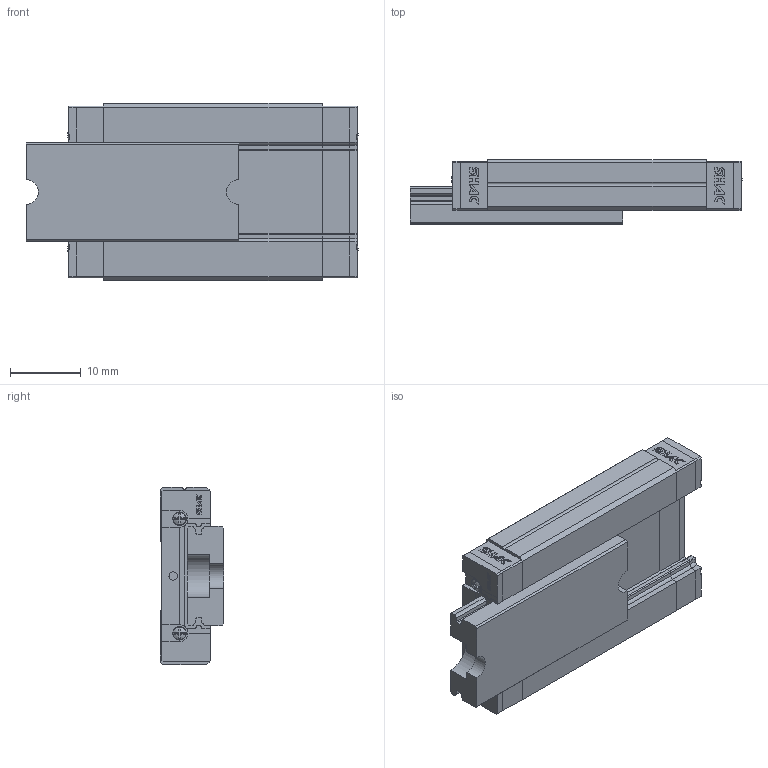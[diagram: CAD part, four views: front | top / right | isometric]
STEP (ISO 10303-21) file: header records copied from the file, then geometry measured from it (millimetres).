
FILE_DESCRIPTION( ( 'STEP AP214' ), '1' );
FILE_NAME( 'F:/品牌/SHAC 台湾鼎翰传动科技有限公司/3D滑块/GMW7H1R30ZFC-0_0_1_.stp', '2025-04-21T22:54:27', ( 'License CC BY-ND 4.0' ), ( 'CADENAS' ), ' ', 'PARTsolutions', ' ' );
FILE_SCHEMA( ( 'AUTOMOTIVE_DESIGN { 1 0 10303 214 1 1 1 1 }' ) );
Length unit declared in the file: millimetre
Products named in the file (5): GMW7H1R30ZFC-0/0(1); _GMW7R30-0/0(1)_R; _GMW7H_S; _GMW7_C; _GMW7_P
Assembly tree (6 placements, depth 2):
  GMW7H1R30ZFC-0/0(1)
    _GMW7R30-0/0(1)_R
    _GMW7H_S
    _GMW7_C  x2
    _GMW7_P  x2
Bounding box: 46.81 x 9 x 25 mm (x, y, z)
Volume: 7169.1 mm3; surface area: 5755.1 mm2
Topology: 6 solids, 6 shells, 655 faces, 1817 edges, 1206 vertices
Faces by surface type: plane 526, cylinder 113, cone 8, sphere 4, torus 4
Full cylindrical faces by diameter (mm): 1.2 x2, 1.92 x4, 2.459 x4
Entity records: 15546 total; most frequent: CARTESIAN_POINT 2180, ORIENTED_EDGE 2124, DIRECTION 2042, EDGE_CURVE 1062, LINE 882, VECTOR 882, VERTEX_POINT 718, AXIS2_PLACEMENT_3D 580
